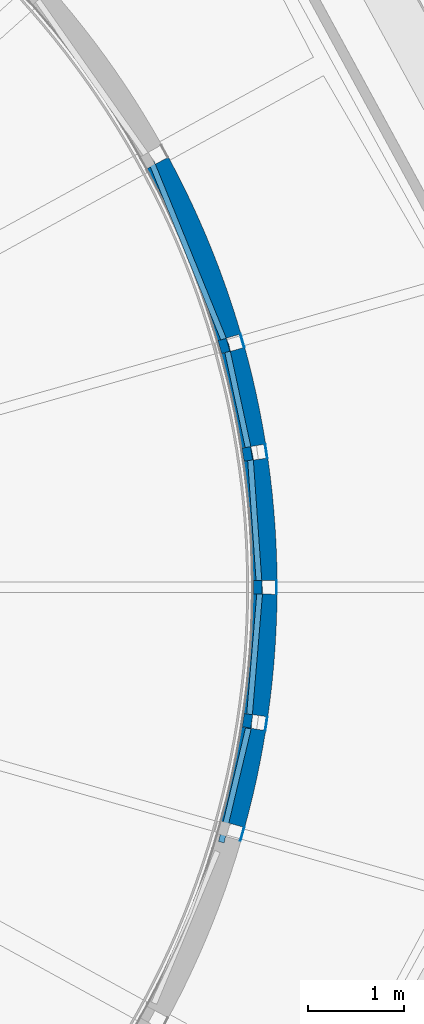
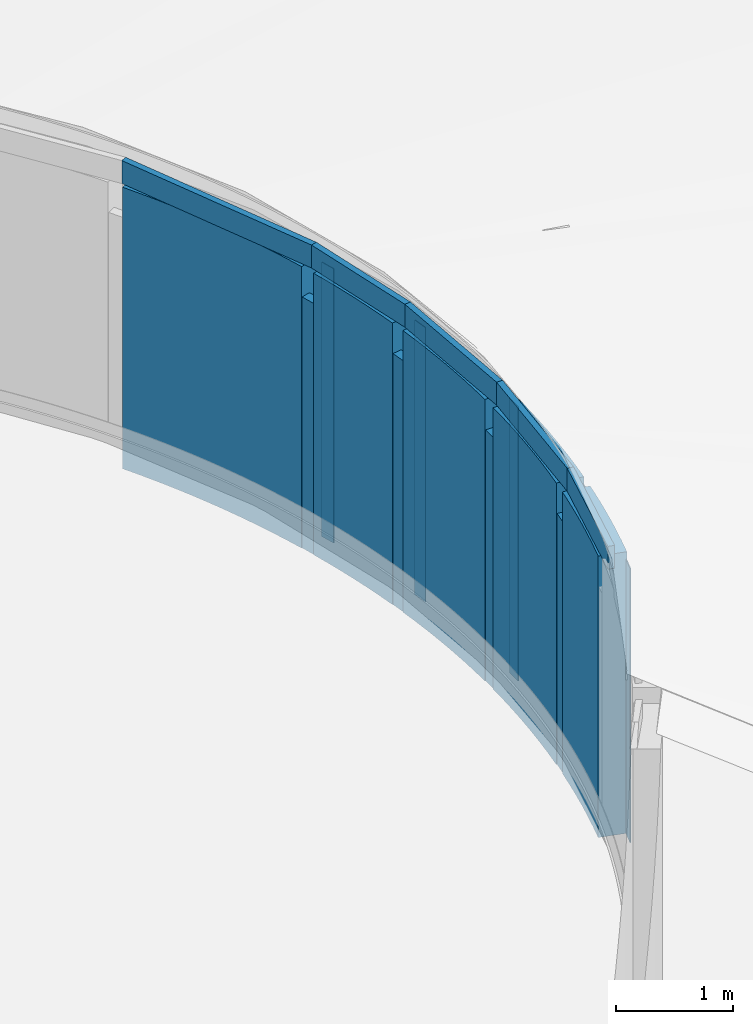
# One storey, part 32 of 66: 19 walls.
"""IFC2X3 building model written with IfcOpenShell, lengths in millimetres."""

from ifc_helpers import new_model, entity, si_unit, converted_unit, derived_unit, direction, frame, frame_2d, origin, place, context, subcontext, project, spatial, polyline, circle_curve, parameter, trimmed, segment, composite_curve, rectangle, outline, extrude, material, layer, layer_set, layer_usage, type_object, element, save


model = new_model("IFC2X3")

# Units and contexts
model_context = context("Model", 3, precision=0.01, world=origin(), true_north=direction((6.12303176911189e-17, 1.0)))
body_context = subcontext(model_context, "Body", "Model", "MODEL_VIEW")
ifc_project = project(units=[si_unit("LENGTHUNIT", "METRE", prefix="MILLI"), si_unit("AREAUNIT", "SQUARE_METRE"), si_unit("VOLUMEUNIT", "CUBIC_METRE"), converted_unit("PLANEANGLEUNIT", "DEGREE", entity("IfcRatioMeasure", 0.0174532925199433), si_unit("PLANEANGLEUNIT", "RADIAN"), dimensions=[0, 0, 0, 0, 0, 0, 0]), si_unit("MASSUNIT", "GRAM", prefix="KILO"), derived_unit("MASSDENSITYUNIT", [(si_unit("MASSUNIT", "GRAM", prefix="KILO"), 1), (si_unit("LENGTHUNIT", "METRE"), -3)]), derived_unit("MOMENTOFINERTIAUNIT", [(si_unit("LENGTHUNIT", "METRE"), 4)]), si_unit("TIMEUNIT", "SECOND"), si_unit("FREQUENCYUNIT", "HERTZ"), si_unit("THERMODYNAMICTEMPERATUREUNIT", "DEGREE_CELSIUS"), derived_unit("THERMALTRANSMITTANCEUNIT", [(si_unit("MASSUNIT", "GRAM", prefix="KILO"), 1), (si_unit("THERMODYNAMICTEMPERATUREUNIT", "KELVIN"), -1), (si_unit("TIMEUNIT", "SECOND"), -3)]), derived_unit("VOLUMETRICFLOWRATEUNIT", [(si_unit("LENGTHUNIT", "METRE"), 3), (si_unit("TIMEUNIT", "SECOND"), -1)]), si_unit("ELECTRICCURRENTUNIT", "AMPERE"), si_unit("ELECTRICVOLTAGEUNIT", "VOLT"), si_unit("POWERUNIT", "WATT"), si_unit("FORCEUNIT", "NEWTON", prefix="KILO"), si_unit("ILLUMINANCEUNIT", "LUX"), si_unit("LUMINOUSFLUXUNIT", "LUMEN"), si_unit("LUMINOUSINTENSITYUNIT", "CANDELA"), derived_unit("USERDEFINED", [(si_unit("MASSUNIT", "GRAM", prefix="KILO"), -1), (si_unit("LENGTHUNIT", "METRE"), -2), (si_unit("TIMEUNIT", "SECOND"), 3), (si_unit("LUMINOUSFLUXUNIT", "LUMEN"), 1)]), derived_unit("LINEARVELOCITYUNIT", [(si_unit("LENGTHUNIT", "METRE"), 1), (si_unit("TIMEUNIT", "SECOND"), -1)]), si_unit("PRESSUREUNIT", "PASCAL"), derived_unit("USERDEFINED", [(si_unit("LENGTHUNIT", "METRE"), -2), (si_unit("MASSUNIT", "GRAM", prefix="KILO"), 1), (si_unit("TIMEUNIT", "SECOND"), -2)]), derived_unit("LINEARFORCEUNIT", [(si_unit("MASSUNIT", "GRAM", prefix="KILO"), 1), (si_unit("LENGTHUNIT", "METRE"), 1), (si_unit("TIMEUNIT", "SECOND"), -2), (si_unit("LENGTHUNIT", "METRE"), -1)]), derived_unit("PLANARFORCEUNIT", [(si_unit("MASSUNIT", "GRAM", prefix="KILO"), 1), (si_unit("LENGTHUNIT", "METRE"), 1), (si_unit("TIMEUNIT", "SECOND"), -2), (si_unit("LENGTHUNIT", "METRE"), -2)])], contexts=[model_context])

# Site, building, storey
site_placement = place(None, origin())
site = spatial("IfcSite", under=ifc_project, at=site_placement, Name="Default", CompositionType="ELEMENT")
building_placement = place(site_placement, origin())
building = spatial("IfcBuilding", under=site, at=building_placement, Name="-", CompositionType="ELEMENT")
storey_placement = place(building_placement, frame((0.0, 0.0, 3070.0)))
storey = spatial("IfcBuildingStorey", under=building, at=storey_placement, Name="01 eerste verdieping", CompositionType="ELEMENT", Elevation=3070.00000000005)

# Walls
ifc_material_1 = material(Name="NLRS_i4_hout_multiplex")
ifc_layer_1 = layer(ifc_material_1, 10.0)
ifc_material_2 = material(Name="NLRS_m1_isolatie")
ifc_layer_2 = layer(ifc_material_2, 235.0)
ifc_layer_3 = layer(ifc_material_1, 10.0)
ifc_layer_set_1 = layer_set([ifc_layer_1, ifc_layer_2, ifc_layer_3], Name="Basic Wall:NLRS_21_WA_HSB-wand_268mm (zonder gips)")
ifc_layer_usage_1 = layer_usage(ifc_layer_set_1, "AXIS2", "NEGATIVE", 127.5)
wall_type_1 = type_object("IfcWallType", Name="Basic Wall:NLRS_21_WA_HSB-wand_268mm (zonder gips)", PredefinedType="STANDARD", material=ifc_layer_set_1)
wall_1_placement = place(storey_placement, frame((59641.6742129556, 17142.5583268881, 100.0)))
element("IfcWallStandardCase", 1, at=wall_1_placement, inside=storey, type_object=wall_type_1, material=ifc_layer_usage_1, Name="Basic Wall:NLRS_21_WA_HSB-wand_268mm (zonder gips)", ObjectType="Basic Wall:NLRS_21_WA_HSB-wand_268mm (zonder gips)", context=body_context, shape_type="SweptSolid", body=[
    extrude(outline(composite_curve([segment(trimmed(circle_curve(frame_2d((-8995.11155094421, 2473.50140207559), x_axis=(1.0, 0.0)), 9201.5), [parameter(344.624662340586)], [parameter(350.896862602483)], True, "PARAMETER"), False, "CONTINUOUS"), segment(polyline([(-122.936726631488, 33.8054913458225), (122.936726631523, -33.805491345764)]), True, "CONTINUOUS"), segment(trimmed(circle_curve(frame_2d((-8995.11155094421, 2473.50140207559), x_axis=(1.0, 0.0)), 9456.5), [parameter(344.624662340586)], [parameter(350.896862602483)], True, "PARAMETER"), True, "CONTINUOUS"), segment(polyline([(342.285201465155, 977.368340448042), (90.4968895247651, 1017.71243506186)]), True, "CONTINUOUS")], self_intersect=False)), origin(), (0.0, 0.0, 1.0), 2945.0),
])
ifc_layer_usage_2 = layer_usage(ifc_layer_set_1, "AXIS2", "NEGATIVE", 127.5)
wall_2_placement = place(storey_placement, frame((59879.7353227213, 18282.3567569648, 100.0)))
element("IfcWallStandardCase", 2, at=wall_2_placement, inside=storey, type_object=wall_type_1, material=ifc_layer_usage_2, Name="Basic Wall:NLRS_21_WA_HSB-wand_268mm (zonder gips)", ObjectType="Basic Wall:NLRS_21_WA_HSB-wand_268mm (zonder gips)", context=body_context, shape_type="SweptSolid", body=[
    extrude(outline(composite_curve([segment(trimmed(circle_curve(frame_2d((-9233.17266070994, 1333.70297199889), x_axis=(1.0, 0.0)), 9201.5), [parameter(351.780654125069)], [parameter(359.560635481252)], True, "PARAMETER"), False, "CONTINUOUS"), segment(polyline([(-126.190322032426, 18.2277981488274), (126.190322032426, -18.227798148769)]), True, "CONTINUOUS"), segment(trimmed(circle_curve(frame_2d((-9233.17266070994, 1333.70297199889), x_axis=(1.0, 0.0)), 9456.5), [parameter(351.780654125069)], [parameter(359.560635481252)], True, "PARAMETER"), True, "CONTINUOUS"), segment(polyline([(223.049302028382, 1261.1878602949), (-31.9432005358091, 1263.14327228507)]), True, "CONTINUOUS")], self_intersect=False)), origin(), (0.0, 0.0, 1.0), 2945.0),
])
ifc_layer_usage_3 = layer_usage(ifc_layer_set_1, "AXIS2", "NEGATIVE", 127.5)
wall_3_placement = place(storey_placement, frame((59975.2873303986, 19687.7330254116, 100.0)))
element("IfcWallStandardCase", 3, at=wall_3_placement, inside=storey, type_object=wall_type_1, material=ifc_layer_usage_3, Name="Basic Wall:NLRS_21_WA_HSB-wand_268mm (zonder gips)", ObjectType="Basic Wall:NLRS_21_WA_HSB-wand_268mm (zonder gips)", context=body_context, shape_type="SweptSolid", body=[
    extrude(outline(composite_curve([segment(trimmed(circle_curve(frame_2d((-9328.72466838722, -71.6732964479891), x_axis=(1.0, 0.0)), 9201.5), [parameter(0.44019914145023)], [parameter(8.21059539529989)], True, "PARAMETER"), False, "CONTINUOUS"), segment(polyline([(-127.496237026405, -0.979563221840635), (127.496237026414, 0.979563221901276)]), True, "CONTINUOUS"), segment(trimmed(circle_curve(frame_2d((-9328.72466838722, -71.6732964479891), x_axis=(1.0, 0.0)), 9456.5), [parameter(0.44019914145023)], [parameter(8.21059539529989)], True, "PARAMETER"), True, "CONTINUOUS"), segment(polyline([(30.844678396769, 1278.82805221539), (-221.541530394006, 1242.4110010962)]), True, "CONTINUOUS")], self_intersect=False)), origin(), (0.0, 0.0, 1.0), 2945.0),
])
ifc_layer_usage_4 = layer_usage(ifc_layer_set_1, "AXIS2", "NEGATIVE", 127.5)
wall_4_placement = place(storey_placement, frame((59602.8994705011, 22226.4757825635, 100.0)))
element("IfcWallStandardCase", 4, at=wall_4_placement, inside=storey, type_object=wall_type_1, material=ifc_layer_usage_4, Name="Basic Wall:NLRS_21_WA_HSB-wand_268mm (zonder gips)", ObjectType="Basic Wall:NLRS_21_WA_HSB-wand_268mm (zonder gips)", context=body_context, shape_type="SweptSolid", body=[
    extrude(outline(composite_curve([segment(trimmed(circle_curve(frame_2d((-8956.33680848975, -2610.41605359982), x_axis=(1.0, 0.0)), 9201.5), [parameter(16.2493038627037)], [parameter(28.3598949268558)], True, "PARAMETER"), False, "CONTINUOUS"), segment(polyline([(-122.406789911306, -35.6767120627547), (122.406789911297, 35.676712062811)]), True, "CONTINUOUS"), segment(trimmed(circle_curve(frame_2d((-8956.33680848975, -2610.41605359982), x_axis=(1.0, 0.0)), 9456.5), [parameter(16.2493038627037)], [parameter(28.3598949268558)], True, "PARAMETER"), True, "CONTINUOUS"), segment(polyline([(-634.79385385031, 1881.50058677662), (-859.189079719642, 1760.37345271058)]), True, "CONTINUOUS")], self_intersect=False)), origin(), (0.0, 0.0, 1.0), 2945.0),
])
ifc_layer_usage_5 = layer_usage(ifc_layer_set_1, "AXIS2", "NEGATIVE", 127.5)
wall_5_placement = place(storey_placement, frame((59858.1581215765, 21091.4410658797, 100.0)))
element("IfcWallStandardCase", 5, at=wall_5_placement, inside=storey, type_object=wall_type_1, material=ifc_layer_usage_5, Name="Basic Wall:NLRS_21_WA_HSB-wand_268mm (zonder gips)", ObjectType="Basic Wall:NLRS_21_WA_HSB-wand_268mm (zonder gips)", context=body_context, shape_type="SweptSolid", body=[
    extrude(outline(composite_curve([segment(trimmed(circle_curve(frame_2d((-9211.59545956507, -1475.38133691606), x_axis=(1.0, 0.0)), 9201.5), [parameter(9.09953180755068)], [parameter(15.3649217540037)], True, "PARAMETER"), False, "CONTINUOUS"), segment(polyline([(-125.895425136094, -20.1641248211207), (125.895425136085, 20.1641248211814)]), True, "CONTINUOUS"), segment(trimmed(circle_curve(frame_2d((-9211.59545956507, -1475.38133691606), x_axis=(1.0, 0.0)), 9456.5), [parameter(9.09953180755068)], [parameter(15.3649217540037)], True, "PARAMETER"), True, "CONTINUOUS"), segment(polyline([(-93.0915247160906, 1030.26792827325), (-338.977265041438, 962.701644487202)]), True, "CONTINUOUS")], self_intersect=False)), origin(), (0.0, 0.0, 1.0), 2945.0),
])
ifc_material_3 = material(Name="NLRS_n7_isolatie PIR_gen")
ifc_layer_4 = layer(ifc_material_3, 60.0)
ifc_layer_set_2 = layer_set([ifc_layer_4], Name="Basic Wall:NLRS_22_WA_LB_isolatie PIR 60mm")
ifc_layer_usage_6 = layer_usage(ifc_layer_set_2, "AXIS2", "NEGATIVE", 30.0)
wall_type_2 = type_object("IfcWallType", Name="Basic Wall:NLRS_22_WA_LB_isolatie PIR 60mm", PredefinedType="STANDARD", material=ifc_layer_set_2)
wall_6_placement = place(storey_placement, frame((58791.9347010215, 24053.5594147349, 3045.0), z_axis=(0.0, 0.0, 1.0), x_axis=(0.37739178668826, -0.926053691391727, 0.0)))
element("IfcWallStandardCase", 6, at=wall_6_placement, inside=storey, type_object=wall_type_2, material=ifc_layer_usage_6, Name="Basic Wall:NLRS_22_WA_LB_isolatie PIR 60mm", ObjectType="Basic Wall:NLRS_22_WA_LB_isolatie PIR 60mm", context=body_context, shape_type="SweptSolid", body=[
    extrude(outline(polyline([(2064.72850426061, -30.0), (2070.00590958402, 30.0), (0.0, 30.0), (6.7841153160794, -30.0), (2064.72850426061, -30.0)])), origin(), (0.0, 0.0, 1.0), 240.00000000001),
])
ifc_layer_usage_7 = layer_usage(ifc_layer_set_2, "AXIS2", "NEGATIVE", 30.0)
wall_7_placement = place(storey_placement, frame((59571.5881289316, 22141.6462770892, 3045.0), z_axis=(0.0, 0.0, 1.0), x_axis=(0.209942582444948, -0.977713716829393, 0.0)))
element("IfcWallStandardCase", 7, at=wall_7_placement, inside=storey, type_object=wall_type_2, material=ifc_layer_usage_7, Name="Basic Wall:NLRS_22_WA_LB_isolatie PIR 60mm", ObjectType="Basic Wall:NLRS_22_WA_LB_isolatie PIR 60mm", context=body_context, shape_type="SweptSolid", body=[
    extrude(outline(polyline([(1198.19703446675, -30.0), (1202.45117125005, 30.0), (0.0, 30.0), (5.27740532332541, -30.0), (1198.19703446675, -30.0)])), origin(), (0.0, 0.0, 1.0), 240.000000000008),
])
ifc_layer_usage_8 = layer_usage(ifc_layer_set_2, "AXIS2", "NEGATIVE", 30.0)
wall_8_placement = place(storey_placement, frame((59823.4386067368, 20970.194803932, 3045.0), z_axis=(0.0, 0.0, 1.0), x_axis=(0.0698915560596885, -0.997554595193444, 0.0)))
element("IfcWallStandardCase", 8, at=wall_8_placement, inside=storey, type_object=wall_type_2, material=ifc_layer_usage_8, Name="Basic Wall:NLRS_22_WA_LB_isolatie PIR 60mm", ObjectType="Basic Wall:NLRS_22_WA_LB_isolatie PIR 60mm", context=body_context, shape_type="SweptSolid", body=[
    extrude(outline(polyline([(1408.69887743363, -30.0), (1413.32277009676, 30.0), (0.0, 30.0), (4.25413678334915, -30.0), (1408.69887743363, -30.0)])), origin(), (0.0, 0.0, 1.0), 240.000000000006),
])
ifc_layer_usage_9 = layer_usage(ifc_layer_set_2, "AXIS2", "NEGATIVE", 30.0)
wall_9_placement = place(storey_placement, frame((59922.2500409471, 19564.9382912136, 3045.0), z_axis=(0.0, 0.0, 1.0), x_axis=(-0.0837788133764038, -0.99648437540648, 0.0)))
element("IfcWallStandardCase", 9, at=wall_9_placement, inside=storey, type_object=wall_type_2, material=ifc_layer_usage_9, Name="Basic Wall:NLRS_22_WA_LB_isolatie PIR 60mm", ObjectType="Basic Wall:NLRS_22_WA_LB_isolatie PIR 60mm", context=body_context, shape_type="SweptSolid", body=[
    extrude(outline(polyline([(1424.64703502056, -30.0), (1429.12939548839, 30.0), (0.0, 30.0), (4.62389266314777, -30.0), (1424.64703502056, -30.0)])), origin(), (0.0, 0.0, 1.0), 240.00000000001),
])
ifc_layer_usage_10 = layer_usage(ifc_layer_set_2, "AXIS2", "NEGATIVE", 30.0)
wall_10_placement = place(storey_placement, frame((59803.2245487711, 18145.2470922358, 3045.0), z_axis=(0.0, 0.0, 1.0), x_axis=(-0.230909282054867, -0.972975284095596, 0.0)))
element("IfcWallStandardCase", 10, at=wall_10_placement, inside=storey, type_object=wall_type_2, material=ifc_layer_usage_10, Name="Basic Wall:NLRS_22_WA_LB_isolatie PIR 60mm", ObjectType="Basic Wall:NLRS_22_WA_LB_isolatie PIR 60mm", context=body_context, shape_type="SweptSolid", body=[
    extrude(outline(polyline([(1223.15220491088, -30.0), (1223.15220491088, 30.0), (0.0, 30.0), (4.48236046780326, -30.0), (1223.15220491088, -30.0)])), origin(), (0.0, 0.0, 1.0), 240.00000000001),
])
ifc_layer_5 = layer(ifc_material_3, 90.0)
ifc_layer_set_3 = layer_set([ifc_layer_5], Name="Basic Wall:NLRS_22_WA_LB_isolatie PIR 90mm")
ifc_layer_usage_11 = layer_usage(ifc_layer_set_3, "AXIS2", "NEGATIVE", 45.0)
wall_type_3 = type_object("IfcWallType", Name="Basic Wall:NLRS_22_WA_LB_isolatie PIR 90mm", PredefinedType="STANDARD", material=ifc_layer_set_3)
wall_11_placement = place(storey_placement, frame((59783.6811100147, 18153.4103379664, 100.0), z_axis=(0.0, 0.0, 1.0), x_axis=(0.150587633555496, 0.988596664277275, 0.0)))
element("IfcWallStandardCase", 11, at=wall_11_placement, inside=storey, type_object=wall_type_3, material=ifc_layer_usage_11, Name="Basic Wall:NLRS_22_WA_LB_isolatie PIR 90mm", ObjectType="Basic Wall:NLRS_22_WA_LB_isolatie PIR 90mm", context=body_context, shape_type="SweptSolid", body=[
    extrude(rectangle(XDim=139.999999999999, YDim=89.9999999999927, at=frame_2d((69.9999999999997, -4.9737991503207e-13), x_axis=(-1.0, 0.0))), origin(), (0.0, 0.0, 1.0), 2625.73599912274),
])
ifc_layer_usage_12 = layer_usage(ifc_layer_set_3, "AXIS2", "NEGATIVE", 45.0)
wall_12_placement = place(storey_placement, frame((59899.5744340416, 19546.8815396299, 100.0), z_axis=(0.0, 0.0, 1.0), x_axis=(0.0, 1.0, 0.0)))
element("IfcWallStandardCase", 12, at=wall_12_placement, inside=storey, type_object=wall_type_3, material=ifc_layer_usage_12, Name="Basic Wall:NLRS_22_WA_LB_isolatie PIR 90mm", ObjectType="Basic Wall:NLRS_22_WA_LB_isolatie PIR 90mm", context=body_context, shape_type="SweptSolid", body=[
    extrude(rectangle(XDim=139.073809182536, YDim=89.9999999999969, at=frame_2d((69.5369045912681, -9.84101689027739e-13), x_axis=(-1.0, 0.0))), origin(), (0.0, 0.0, 1.0), 2625.73599912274),
])
ifc_layer_usage_13 = layer_usage(ifc_layer_set_3, "AXIS2", "NEGATIVE", 45.0)
wall_13_placement = place(storey_placement, frame((59802.7480213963, 20939.3742821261, 100.0), z_axis=(0.0, 0.0, 1.0), x_axis=(-0.155229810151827, 0.987878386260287, 0.0)))
element("IfcWallStandardCase", 13, at=wall_13_placement, inside=storey, type_object=wall_type_3, material=ifc_layer_usage_13, Name="Basic Wall:NLRS_22_WA_LB_isolatie PIR 90mm", ObjectType="Basic Wall:NLRS_22_WA_LB_isolatie PIR 90mm", context=body_context, shape_type="SweptSolid", body=[
    extrude(rectangle(XDim=139.245833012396, YDim=90.0000000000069, at=frame_2d((69.622916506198, -4.29878355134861e-13), x_axis=(-1.0, 0.0))), origin(), (0.0, 0.0, 1.0), 2625.73599912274),
])
ifc_layer_usage_14 = layer_usage(ifc_layer_set_3, "AXIS2", "NEGATIVE", 45.0)
wall_14_placement = place(storey_placement, frame((59566.615670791, 22069.2946275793, 100.0), z_axis=(0.0, 0.0, 1.0), x_axis=(-0.272490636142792, 0.962158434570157, 0.0)))
element("IfcWallStandardCase", 14, at=wall_14_placement, inside=storey, type_object=wall_type_3, material=ifc_layer_usage_14, Name="Basic Wall:NLRS_22_WA_LB_isolatie PIR 90mm", ObjectType="Basic Wall:NLRS_22_WA_LB_isolatie PIR 90mm", context=body_context, shape_type="SweptSolid", body=[
    extrude(rectangle(XDim=139.444515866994, YDim=90.0000000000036, at=frame_2d((69.7222579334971, -3.31112914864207e-12), x_axis=(-1.0, 0.0))), origin(), (0.0, 0.0, 1.0), 2625.73599912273),
])
ifc_material_4 = material(Name="NLRS_i4_hout_multiplex wit")
ifc_layer_6 = layer(ifc_material_4, 9.0)
ifc_layer_set_4 = layer_set([ifc_layer_6], Name="Basic Wall:NLRS_41_WA_plaatmateriaal 9mm_gen_aly")
ifc_layer_usage_15 = layer_usage(ifc_layer_set_4, "AXIS2", "NEGATIVE", 4.5)
wall_type_4 = type_object("IfcWallType", Name="Basic Wall:NLRS_41_WA_plaatmateriaal 9mm_gen_aly", PredefinedType="STANDARD", material=ifc_layer_set_4)
wall_15_placement = place(storey_placement, frame((59759.2364717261, 17110.1950277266, 100.0), z_axis=(0.0, 0.0, 1.0), x_axis=(-0.272507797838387, -0.962153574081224, 0.0)))
element("IfcWallStandardCase", 15, at=wall_15_placement, inside=storey, type_object=wall_type_4, material=ifc_layer_usage_15, Name="Basic Wall:NLRS_41_WA_plaatmateriaal 9mm_gen_aly", ObjectType="Basic Wall:NLRS_41_WA_plaatmateriaal 9mm_gen_aly", context=body_context, shape_type="SweptSolid", body=[
    extrude(rectangle(XDim=144.495987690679, YDim=8.99999999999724, at=frame_2d((72.2479938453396, 2.94875235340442e-13), x_axis=(-1.0, 0.0))), origin(), (0.0, 0.0, 1.0), 2870.0),
])
ifc_layer_usage_16 = layer_usage(ifc_layer_set_4, "AXIS2", "NEGATIVE", 4.5)
wall_16_placement = place(storey_placement, frame((60000.4133443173, 18264.8901477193, 100.0), z_axis=(0.0, 0.0, 1.0), x_axis=(-0.150587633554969, -0.988596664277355, 0.0)))
element("IfcWallStandardCase", 16, at=wall_16_placement, inside=storey, type_object=wall_type_4, material=ifc_layer_usage_16, Name="Basic Wall:NLRS_41_WA_plaatmateriaal 9mm_gen_aly", ObjectType="Basic Wall:NLRS_41_WA_plaatmateriaal 9mm_gen_aly", context=body_context, shape_type="SweptSolid", body=[
    extrude(rectangle(XDim=145.704166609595, YDim=9.00000000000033, at=frame_2d((72.8520833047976, -4.44089209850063e-16), x_axis=(-1.0, 0.0))), origin(), (0.0, 0.0, 1.0), 2870.0),
])
ifc_layer_usage_17 = layer_usage(ifc_layer_set_4, "AXIS2", "NEGATIVE", 4.5)
wall_17_placement = place(storey_placement, frame((60097.2194980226, 19688.635265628, 100.0), z_axis=(0.0, 0.0, 1.0), x_axis=(0.0, -1.0, 0.0)))
element("IfcWallStandardCase", 17, at=wall_17_placement, inside=storey, type_object=wall_type_4, material=ifc_layer_usage_17, Name="Basic Wall:NLRS_41_WA_plaatmateriaal 9mm_gen_aly", ObjectType="Basic Wall:NLRS_41_WA_plaatmateriaal 9mm_gen_aly", context=body_context, shape_type="SweptSolid", body=[
    extrude(rectangle(XDim=145.000000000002, YDim=8.99999999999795, at=frame_2d((72.5000000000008, 0.0), x_axis=(-1.0, 0.0))), origin(), (0.0, 0.0, 1.0), 2870.0),
])
ifc_layer_usage_18 = layer_usage(ifc_layer_set_4, "AXIS2", "NEGATIVE", 4.5)
wall_18_placement = place(storey_placement, frame((59978.5645942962, 21110.6906959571, 100.0), z_axis=(0.0, 0.0, 1.0), x_axis=(0.150485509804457, -0.988612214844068, 0.0)))
element("IfcWallStandardCase", 18, at=wall_18_placement, inside=storey, type_object=wall_type_4, material=ifc_layer_usage_18, Name="Basic Wall:NLRS_41_WA_plaatmateriaal 9mm_gen_aly", ObjectType="Basic Wall:NLRS_41_WA_plaatmateriaal 9mm_gen_aly", context=body_context, shape_type="SweptSolid", body=[
    extrude(rectangle(XDim=146.558724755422, YDim=9.00000000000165, at=frame_2d((73.2793623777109, -4.44089209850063e-16), x_axis=(-1.0, 0.0))), origin(), (0.0, 0.0, 1.0), 2870.0),
])
ifc_layer_usage_19 = layer_usage(ifc_layer_set_4, "AXIS2", "NEGATIVE", 4.5)
wall_19_placement = place(storey_placement, frame((59719.973761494, 22260.5621089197, 100.0), z_axis=(0.0, 0.0, 1.0), x_axis=(0.272399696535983, -0.962184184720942, 0.0)))
element("IfcWallStandardCase", 19, at=wall_19_placement, inside=storey, type_object=wall_type_4, material=ifc_layer_usage_19, Name="Basic Wall:NLRS_41_WA_plaatmateriaal 9mm_gen_aly", ObjectType="Basic Wall:NLRS_41_WA_plaatmateriaal 9mm_gen_aly", context=body_context, shape_type="SweptSolid", body=[
    extrude(rectangle(XDim=145.80787281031, YDim=9.00000000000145, at=frame_2d((72.903936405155, 4.44089209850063e-16), x_axis=(-1.0, 0.0))), origin(), (0.0, 0.0, 1.0), 2870.0),
])

save(model, "model.ifc")
